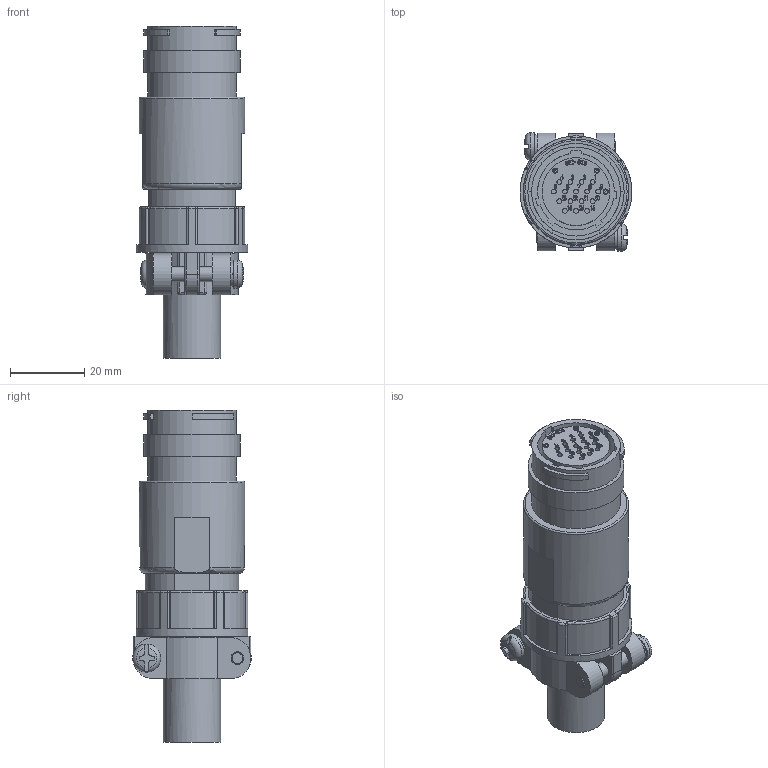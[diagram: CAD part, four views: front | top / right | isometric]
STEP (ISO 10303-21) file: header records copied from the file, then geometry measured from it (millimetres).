
FILE_DESCRIPTION (( 'STEP AP203' ), '1' );
FILE_NAME ('WEBCR2116F-2-D(R1).STEP', '2021-08-04T01:29:51', ( '' ), ( '' ), 'SwSTEP 2.0', 'SolidWorks 2018', '' );
FILE_SCHEMA (( 'CONFIG_CONTROL_DESIGN' ));
Products named in the file (1): WEBCR2116F-2-D(R1)
Bounding box: 30.2 x 32.1 x 89.58 mm (x, y, z)
Volume: 30018.4 mm3; surface area: 18682.7 mm2
Topology: 1 solids, 1 shells, 1511 faces, 4046 edges, 2647 vertices
Faces by surface type: plane 675, bspline 576, cylinder 191, cone 26, torus 23, sphere 20
Full cylindrical faces by diameter (mm): 1.1 x19, 1.2 x1, 1.3 x16, 1.4 x4, 1.55 x16, 2.8 x2, 3.4 x2, 4.1 x2, 4.3 x4, 7.6 x2, 11 x2, 15.46 x1, 15.8 x1, 16.22 x1, 18.1 x1, 18.3 x1, 20.1 x1, 20.45 x1, 23.96 x1, 24 x1, 26 x2, 28.4 x1, 30.2 x1
Entity records: 65453 total; most frequent: CARTESIAN_POINT 32192, ORIENTED_EDGE 7740, DIRECTION 4956, EDGE_CURVE 3870, VERTEX_POINT 2602, VECTOR 2212, LINE 2212, EDGE_LOOP 1768
